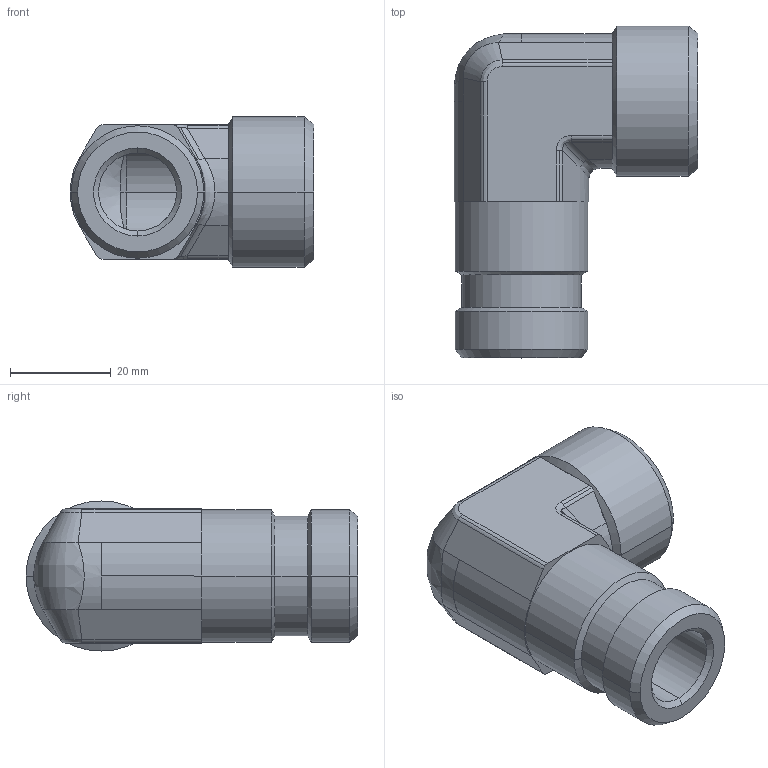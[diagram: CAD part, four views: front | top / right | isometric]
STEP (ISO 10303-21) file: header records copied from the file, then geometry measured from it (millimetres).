
FILE_DESCRIPTION((''),'2;1');
FILE_NAME('106110.stp','2007-10-31T14:50:32',(''),(''),'AutoCAD STEP 2000i','AutoCAD 2000i',', , ');
FILE_SCHEMA(('CONFIG_CONTROL_DESIGN'));
Length unit declared in the file: millimetre
Products named in the file (2): 106110.0; 3090#0
Assembly tree (1 placements, depth 2):
  106110.0
    3090#0
Bounding box: 48.38 x 65.91 x 29.82 mm (x, y, z)
Volume: 29721.7 mm3; surface area: 12799 mm2
Topology: 1 solids, 1 shells, 93 faces, 217 edges, 128 vertices
Faces by surface type: cylinder 42, plane 22, cone 17, bspline 12
Entity records: 3567 total; most frequent: CARTESIAN_POINT 1337, DIRECTION 468, ORIENTED_EDGE 434, EDGE_CURVE 217, AXIS2_PLACEMENT_3D 189, VERTEX_POINT 128, EDGE_LOOP 97, CIRCLE 96
